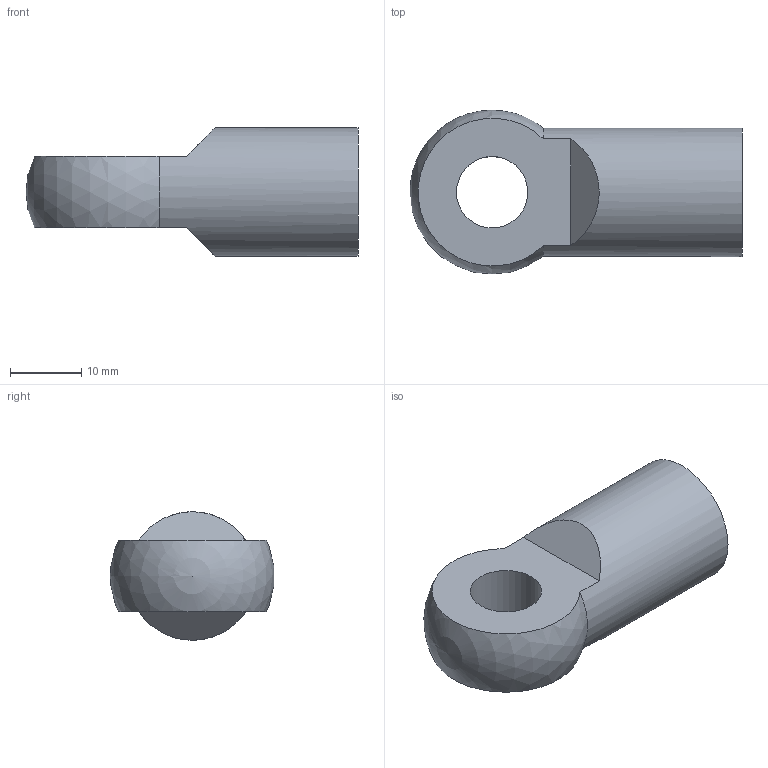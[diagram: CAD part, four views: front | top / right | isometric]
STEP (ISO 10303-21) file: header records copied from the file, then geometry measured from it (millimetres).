
FILE_DESCRIPTION( ( 'STEP AP203' ), '1' );
FILE_NAME( 'C:/Temp/Ganter_Step_05_03_2020/data/3_6/gn752/Joint piece GN 752-10-M10.stp', '2020-03-12T14:12:41', ( 'License CC BY-ND 4.0' ), ( 'CADENAS' ), ' ', 'PARTsolutions', ' ' );
FILE_SCHEMA( ( 'CONFIG_CONTROL_DESIGN' ) );
Length unit declared in the file: millimetre
Products named in the file (1): _Joint piece GN 752-10-M10
Bounding box: 46.5 x 22.91 x 18 mm (x, y, z)
Volume: 7935.1 mm3; surface area: 3744.2 mm2
Topology: 1 solids, 1 shells, 12 faces, 31 edges, 20 vertices
Faces by surface type: plane 5, cylinder 3, sphere 2, cone 2
Full cylindrical faces by diameter (mm): 8.376 x1, 10 x1, 18 x1
Entity records: 348 total; most frequent: DIRECTION 58, CARTESIAN_POINT 49, ORIENTED_EDGE 38, AXIS2_PLACEMENT_3D 26, EDGE_LOOP 20, EDGE_CURVE 19, VERTEX_POINT 17, FACE_OUTER_BOUND 15
